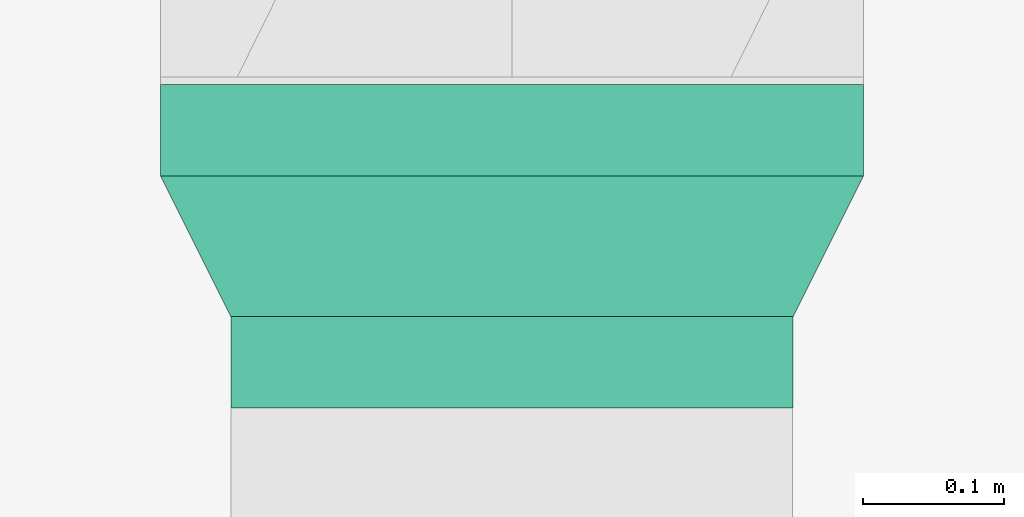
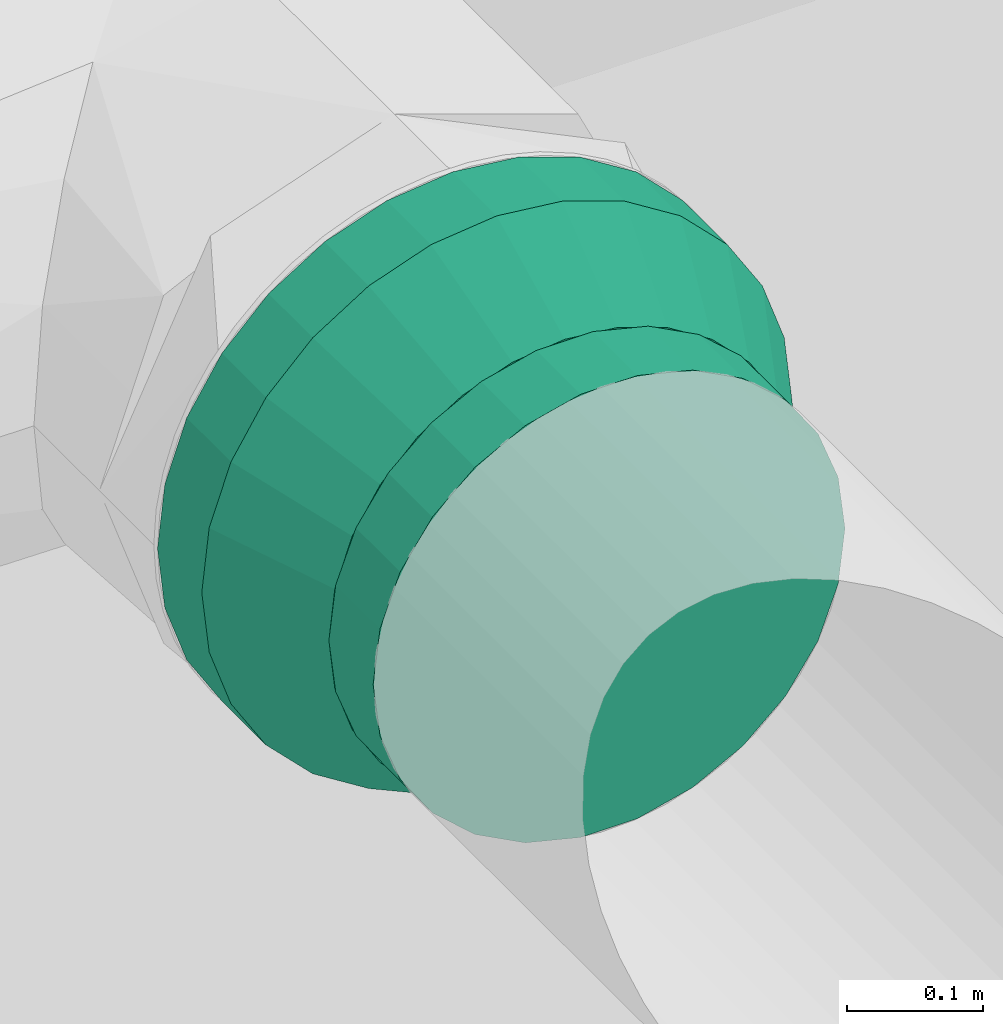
# One storey, part 11 of 31: 1 flow fitting.
"""IFC2X3 building model written with IfcOpenShell, lengths in millimetres."""

from ifc_helpers import new_model, entity, si_unit, converted_unit, derived_unit, direction, frame, origin, place, context, subcontext, project, spatial, faceted_brep, source, transform, mapped, material, material_list, type_object, type_shapes, element, save


model = new_model("IFC2X3")

# Units and contexts
model_context = context("Model", 3, precision=0.01, world=origin(), true_north=direction((6.123031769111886e-17, 1.0)))
body_context = subcontext(model_context, "Body", "Model", "MODEL_VIEW")
ifc_project = project(units=[si_unit("LENGTHUNIT", "METRE", prefix="MILLI"), si_unit("AREAUNIT", "SQUARE_METRE"), si_unit("VOLUMEUNIT", "CUBIC_METRE"), converted_unit("PLANEANGLEUNIT", "DEGREE", entity("IfcRatioMeasure", 0.017453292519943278), si_unit("PLANEANGLEUNIT", "RADIAN"), dimensions=[0, 0, 0, 0, 0, 0, 0]), si_unit("MASSUNIT", "GRAM", prefix="KILO"), derived_unit("MASSDENSITYUNIT", [(si_unit("MASSUNIT", "GRAM", prefix="KILO"), 1), (si_unit("LENGTHUNIT", "METRE"), -3)]), derived_unit("MOMENTOFINERTIAUNIT", [(si_unit("LENGTHUNIT", "METRE"), 4)]), si_unit("TIMEUNIT", "SECOND"), si_unit("FREQUENCYUNIT", "HERTZ"), si_unit("THERMODYNAMICTEMPERATUREUNIT", "DEGREE_CELSIUS"), derived_unit("THERMALTRANSMITTANCEUNIT", [(si_unit("MASSUNIT", "GRAM", prefix="KILO"), 1), (si_unit("THERMODYNAMICTEMPERATUREUNIT", "KELVIN"), -1), (si_unit("TIMEUNIT", "SECOND"), -3)]), derived_unit("VOLUMETRICFLOWRATEUNIT", [(si_unit("LENGTHUNIT", "METRE"), 3), (si_unit("TIMEUNIT", "SECOND"), -1)]), derived_unit("MASSFLOWRATEUNIT", [(si_unit("MASSUNIT", "GRAM", prefix="KILO"), 1), (si_unit("TIMEUNIT", "SECOND"), -1)]), derived_unit("ROTATIONALFREQUENCYUNIT", [(si_unit("TIMEUNIT", "SECOND"), -1)]), si_unit("ELECTRICCURRENTUNIT", "AMPERE"), si_unit("ELECTRICVOLTAGEUNIT", "VOLT"), si_unit("POWERUNIT", "WATT"), si_unit("FORCEUNIT", "NEWTON", prefix="KILO"), si_unit("ILLUMINANCEUNIT", "LUX"), si_unit("LUMINOUSFLUXUNIT", "LUMEN"), si_unit("LUMINOUSINTENSITYUNIT", "CANDELA"), derived_unit("USERDEFINED", [(si_unit("MASSUNIT", "GRAM", prefix="KILO"), -1), (si_unit("LENGTHUNIT", "METRE"), -2), (si_unit("TIMEUNIT", "SECOND"), 3), (si_unit("LUMINOUSFLUXUNIT", "LUMEN"), 1)]), derived_unit("SOUNDPOWERUNIT", [(si_unit("MASSUNIT", "GRAM", prefix="KILO"), 1), (si_unit("LENGTHUNIT", "METRE"), 2), (si_unit("TIMEUNIT", "SECOND"), -3)]), derived_unit("SOUNDPRESSUREUNIT", [(si_unit("MASSUNIT", "GRAM", prefix="KILO"), 1), (si_unit("LENGTHUNIT", "METRE"), -1), (si_unit("TIMEUNIT", "SECOND"), -2)]), derived_unit("LINEARVELOCITYUNIT", [(si_unit("LENGTHUNIT", "METRE"), 1), (si_unit("TIMEUNIT", "SECOND"), -1)]), si_unit("PRESSUREUNIT", "PASCAL"), derived_unit("USERDEFINED", [(si_unit("LENGTHUNIT", "METRE"), -2), (si_unit("MASSUNIT", "GRAM", prefix="KILO"), 1), (si_unit("TIMEUNIT", "SECOND"), -2)]), derived_unit("LINEARFORCEUNIT", [(si_unit("MASSUNIT", "GRAM", prefix="KILO"), 1), (si_unit("LENGTHUNIT", "METRE"), 1), (si_unit("TIMEUNIT", "SECOND"), -2), (si_unit("LENGTHUNIT", "METRE"), -1)]), derived_unit("PLANARFORCEUNIT", [(si_unit("MASSUNIT", "GRAM", prefix="KILO"), 1), (si_unit("LENGTHUNIT", "METRE"), 1), (si_unit("TIMEUNIT", "SECOND"), -2), (si_unit("LENGTHUNIT", "METRE"), -2)])], contexts=[model_context])

# Site, building, storey
site_placement = place(None, origin())
site = spatial("IfcSite", under=ifc_project, at=site_placement, Name="Default", CompositionType="ELEMENT")
building_placement = place(site_placement, origin())
building = spatial("IfcBuilding", under=site, at=building_placement, CompositionType="ELEMENT")
storey_placement = place(building_placement, frame((0.0, 0.0, 3880.0)))
storey = spatial("IfcBuildingStorey", under=building, at=storey_placement, Name="Niveau 1", CompositionType="ELEMENT", Elevation=3880.0)

# Flow fitting
ifc_material = material(Name="<Unnamed>")
ifc_material_list_1 = material_list([ifc_material, ifc_material, ifc_material])
ifc_material_list_2 = material_list([ifc_material, ifc_material, ifc_material])
duct_fitting_type = type_object("IfcDuctFittingType", Name="Circul - Std - Reduction conique - ALDES - STANDARD - (Ba) (1):Standard", PredefinedType="NOTDEFINED", material=ifc_material_list_2)
shared_shape = source(origin(), body_context, "Body", "Brep", [
    faceted_brep([(100.0, 24.107336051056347, 198.54177481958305), (100.0, 70.92097740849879, 187.00324853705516), (100.0, 113.61294934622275, 164.59677317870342), (100.0, 149.70214963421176, 132.62453164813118), (100.0, 177.09120513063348, 92.94463440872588), (100.0, 194.18836348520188, 47.86313285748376), (100.0, 200.0, 0.0), (100.0, 194.18836348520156, -47.86313285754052), (100.0, 177.09120513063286, -92.94463440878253), (100.0, 149.70214963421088, -132.62453164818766), (100.0, 113.61294934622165, -164.5967731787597), (100.0, 70.92097740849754, -187.0032485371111), (100.0, 24.107336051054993, -198.54177481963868), (100.0, -24.10733605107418, -198.54177481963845), (100.0, -70.92097740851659, -187.00324853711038), (100.0, -113.6129493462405, -164.59677317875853), (100.0, -149.70214963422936, -132.6245316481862), (100.0, -177.0912051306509, -92.9446344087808), (100.0, -194.18836348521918, -47.86313285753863), (100.0, -200.0, 0.0), (100.0, -194.18836348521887, 47.863132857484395), (100.0, -177.09120513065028, 92.94463440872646), (100.0, -149.70214963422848, 132.6245316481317), (100.0, -113.61294934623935, 164.5967731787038), (100.0, -70.92097740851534, 187.00324853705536), (100.0, -24.10733605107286, 198.5417748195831), (165.0, 70.92097740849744, -187.0032485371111), (165.0, 113.61294934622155, -164.5967731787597), (165.0, 149.70214963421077, -132.62453164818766), (165.0, 177.09120513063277, -92.94463440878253), (165.0, 194.18836348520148, -47.86313285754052), (165.0, 200.0, 0.0), (165.0, 194.18836348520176, 47.86313285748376), (165.0, 177.09120513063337, 92.94463440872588), (165.0, 149.70214963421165, 132.62453164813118), (165.0, 113.61294934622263, 164.59677317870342), (165.0, 70.92097740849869, 187.00324853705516), (165.0, 24.107336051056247, 198.54177481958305), (165.0, -24.107336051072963, 198.5417748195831), (165.0, -70.92097740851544, 187.00324853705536), (165.0, -113.61294934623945, 164.5967731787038), (165.0, -149.70214963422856, 132.6245316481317), (165.0, -177.0912051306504, 92.94463440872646), (165.0, -194.18836348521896, 47.863132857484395), (165.0, -200.0, 0.0), (165.0, -194.1883634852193, -47.86313285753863), (165.0, -177.091205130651, -92.9446344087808), (165.0, -149.70214963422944, -132.6245316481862), (165.0, -113.6129493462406, -164.59677317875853), (165.0, -70.92097740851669, -187.00324853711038), (165.0, -24.10733605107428, -198.54177481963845), (165.0, 24.107336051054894, -198.54177481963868)], [[[0, 1, 2, 3, 4, 5, 6, 7, 8, 9, 10, 11, 12, 13, 14, 15, 16, 17, 18, 19, 20, 21, 22, 23, 24, 25]], [[26, 27, 28, 29, 30, 31, 32, 33, 34, 35, 36, 37, 38, 39, 40, 41, 42, 43, 44, 45, 46, 47, 48, 49, 50, 51]], [[18, 45, 44, 19]], [[17, 46, 45, 18]], [[48, 47, 16, 15]], [[15, 14, 49, 48]], [[17, 16, 47, 46]], [[13, 50, 49, 14]], [[13, 12, 51, 50]], [[11, 26, 51, 12]], [[10, 27, 26, 11]], [[30, 29, 8, 7]], [[7, 6, 31, 30]], [[10, 9, 28, 27]], [[9, 8, 29, 28]], [[5, 32, 31, 6]], [[4, 33, 32, 5]], [[35, 34, 3, 2]], [[2, 1, 36, 35]], [[4, 3, 34, 33]], [[0, 37, 36, 1]], [[0, 25, 38, 37]], [[40, 39, 24, 23]], [[25, 24, 39, 38]], [[21, 20, 43, 42]], [[41, 22, 21, 42]], [[40, 23, 22, 41]], [[43, 20, 19, 44]]]),
    faceted_brep([(0.0, 108.47093477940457, -225.2422169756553), (0.0, 155.87245046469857, -195.45787061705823), (0.0, 195.45787061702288, -155.87245046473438), (0.0, 225.24221697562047, -108.47093477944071), (0.0, 243.7319780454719, -55.63023348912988), (0.0, 250.0, 0.0), (0.0, 243.7319780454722, 55.630233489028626), (0.0, 225.24221697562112, 108.47093477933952), (0.0, 195.45787061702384, 155.87245046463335), (0.0, 155.87245046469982, 195.45787061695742), (0.0, 108.47093477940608, 225.24221697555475), (0.0, 55.630233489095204, 243.7319780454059), (0.0, 0.0, 250.0), (0.0, -55.63023348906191, 243.73197804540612), (0.0, -108.47093477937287, 225.24221697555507), (0.0, -155.87245046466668, 195.4578706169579), (0.0, -195.4578706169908, 155.87245046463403), (0.0, -225.24221697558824, 108.47093477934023), (0.0, -243.73197804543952, 55.63023348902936), (0.0, -250.0, 0.0), (0.0, -243.73197804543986, -55.63023348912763), (0.0, -225.24221697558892, -108.47093477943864), (0.0, -195.45787061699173, -155.87245046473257), (0.0, -155.8724504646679, -195.45787061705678), (0.0, -108.47093477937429, -225.24221697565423), (0.0, -55.630233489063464, -243.7319780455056), (0.0, 0.0, -250.0), (0.0, 55.63023348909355, -243.73197804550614), (-65.0, 55.6302334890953, 243.7319780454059), (-65.0, 108.47093477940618, 225.24221697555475), (-65.0, 155.87245046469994, 195.45787061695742), (-65.0, 195.45787061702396, 155.87245046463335), (-65.0, 225.24221697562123, 108.47093477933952), (-65.0, 243.7319780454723, 55.630233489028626), (-65.0, 250.0, 0.0), (-65.0, 243.731978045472, -55.63023348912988), (-65.0, 225.24221697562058, -108.47093477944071), (-65.0, 195.45787061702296, -155.87245046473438), (-65.0, 155.8724504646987, -195.45787061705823), (-65.0, 108.47093477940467, -225.2422169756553), (-65.0, 55.63023348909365, -243.73197804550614), (-65.0, 0.0, -250.0), (-65.0, -55.63023348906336, -243.7319780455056), (-65.0, -108.47093477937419, -225.24221697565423), (-65.0, -155.8724504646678, -195.45787061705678), (-65.0, -195.45787061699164, -155.87245046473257), (-65.0, -225.2422169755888, -108.47093477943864), (-65.0, -243.73197804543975, -55.63023348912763), (-65.0, -250.0, 0.0), (-65.0, -243.7319780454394, 55.63023348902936), (-65.0, -225.24221697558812, 108.47093477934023), (-65.0, -195.4578706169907, 155.87245046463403), (-65.0, -155.87245046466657, 195.4578706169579), (-65.0, -108.47093477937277, 225.24221697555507), (-65.0, -55.6302334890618, 243.73197804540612), (-65.0, 0.0, 250.0)], [[[0, 1, 2, 3, 4, 5, 6, 7, 8, 9, 10, 11, 12, 13, 14, 15, 16, 17, 18, 19, 20, 21, 22, 23, 24, 25, 26, 27]], [[28, 29, 30, 31, 32, 33, 34, 35, 36, 37, 38, 39, 40, 41, 42, 43, 44, 45, 46, 47, 48, 49, 50, 51, 52, 53, 54, 55]], [[47, 20, 19, 48]], [[46, 21, 20, 47]], [[23, 22, 45, 44]], [[44, 43, 24, 23]], [[46, 45, 22, 21]], [[42, 25, 24, 43]], [[25, 42, 41, 26]], [[41, 40, 27, 26]], [[36, 35, 4, 3]], [[2, 37, 36, 3]], [[38, 37, 2, 1]], [[4, 35, 34, 5]], [[0, 39, 38, 1]], [[39, 0, 27, 40]], [[33, 6, 5, 34]], [[32, 7, 6, 33]], [[9, 8, 31, 30]], [[30, 29, 10, 9]], [[32, 31, 8, 7]], [[28, 11, 10, 29]], [[11, 28, 55, 12]], [[14, 53, 52, 15]], [[50, 49, 18, 17]], [[16, 51, 50, 17]], [[15, 52, 51, 16]], [[48, 19, 18, 49]], [[13, 12, 55, 54]], [[54, 53, 14, 13]]]),
    faceted_brep([(100.0, 44.504186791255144, -194.98558243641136), (100.0, 86.77674782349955, -180.19377358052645), (100.0, 124.69796037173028, -156.36629649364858), (100.0, 156.36629649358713, -124.69796037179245), (100.0, 180.19377358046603, -86.7767478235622), (100.0, 194.9855824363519, -44.50418679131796), (100.0, 200.0, 0.0), (100.0, 194.9855824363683, 44.50418679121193), (100.0, 180.19377358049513, 86.77674782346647), (100.0, 156.3662964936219, 124.69796037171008), (100.0, 124.69796037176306, 156.36629649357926), (100.0, 86.77674782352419, 180.1937735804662), (100.0, 44.50418679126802, 194.9855824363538), (100.0, 0.0, 200.0), (100.0, -44.50418679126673, 194.9855824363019), (100.0, -86.77674782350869, 180.19377358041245), (100.0, -124.69796037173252, 156.36629649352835), (100.0, -156.36629649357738, 124.69796037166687), (100.0, -180.19377358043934, 86.77674782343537), (100.0, -194.98558243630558, 44.504186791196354), (100.0, -200.0, 0.0), (100.0, -194.9855824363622, -44.504186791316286), (100.0, -180.1937735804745, -86.77674782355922), (100.0, -156.366296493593, -124.69796037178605), (100.0, -124.69796037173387, -156.36629649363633), (100.0, -86.77674782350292, -180.19377358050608), (100.0, -44.50418679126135, -194.9855824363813), (100.0, 0.0, -200.0), (0.0, -55.63023348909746, -243.73197804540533), (0.0, -108.47093477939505, -225.24221697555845), (0.0, -155.87245046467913, -195.45787061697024), (0.0, -195.45787061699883, -155.8724504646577), (0.0, -225.24221697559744, -108.47093477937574), (0.0, -243.73197804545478, -55.63023348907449), (0.0, -250.0, 0.0), (0.0, -243.73197804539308, 55.63023348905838), (0.0, -225.24221697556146, 108.47093477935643), (0.0, -195.45787061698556, 155.87245046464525), (0.0, -155.87245046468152, 195.45787061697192), (0.0, -108.47093477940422, 225.2422169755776), (0.0, -55.63023348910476, 243.7319780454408), (0.0, 0.0, 250.0), (0.0, 55.630233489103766, 243.73197804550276), (0.0, 108.47093477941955, 225.24221697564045), (0.0, 155.8724504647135, 195.45787061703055), (0.0, 195.45787061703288, 155.87245046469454), (0.0, 225.24221697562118, 108.47093477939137), (0.0, 243.7319780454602, 55.63023348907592), (0.0, 250.0, 0.0), (0.0, 243.7319780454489, -55.63023348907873), (0.0, 225.24221697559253, -108.47093477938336), (0.0, 195.45787061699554, -155.87245046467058), (0.0, 155.87245046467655, -195.45787061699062), (0.0, 108.4709347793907, -225.24221697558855), (0.0, 55.63023348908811, -243.73197804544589), (0.0, 0.0, -250.0)], [[[0, 1, 2, 3, 4, 5, 6, 7, 8, 9, 10, 11, 12, 13, 14, 15, 16, 17, 18, 19, 20, 21, 22, 23, 24, 25, 26, 27]], [[28, 29, 30, 31, 32, 33, 34, 35, 36, 37, 38, 39, 40, 41, 42, 43, 44, 45, 46, 47, 48, 49, 50, 51, 52, 53, 54, 55]], [[13, 12, 42, 41]], [[11, 10, 44, 43]], [[12, 11, 43, 42]], [[10, 9, 45, 44]], [[9, 8, 46, 45]], [[7, 6, 48, 47]], [[8, 7, 47, 46]], [[20, 19, 35, 34]], [[18, 17, 37, 36]], [[19, 18, 36, 35]], [[17, 16, 38, 37]], [[16, 15, 39, 38]], [[14, 13, 41, 40]], [[15, 14, 40, 39]], [[27, 26, 28, 55]], [[25, 24, 30, 29]], [[26, 25, 29, 28]], [[24, 23, 31, 30]], [[23, 22, 32, 31]], [[21, 20, 34, 33]], [[22, 21, 33, 32]], [[6, 5, 49, 48]], [[4, 3, 51, 50]], [[5, 4, 50, 49]], [[3, 2, 52, 51]], [[2, 1, 53, 52]], [[0, 27, 55, 54]], [[1, 0, 54, 53]]]),
])
type_shapes(duct_fitting_type, [shared_shape])
flow_fitting_placement = place(storey_placement, frame((-2195.0, -15070.0, 3150.0), z_axis=(0.0, 0.0, 1.0), x_axis=(0.0, -1.0, 0.0)))
element("IfcFlowFitting", 1, at=flow_fitting_placement, inside=storey, type_object=duct_fitting_type, material=ifc_material_list_1, Name="Circul - Std - Reduction conique - ALDES - STANDARD - (Ba) (1):Standard", ObjectType="Circul - Std - Reduction conique - ALDES - STANDARD - (Ba) (1):Standard", context=body_context, shape_type="MappedRepresentation", body=[
    mapped(shared_shape, transform((0.0, 0.0, 0.0), scale=1.0)),
])

save(model, "model.ifc")
